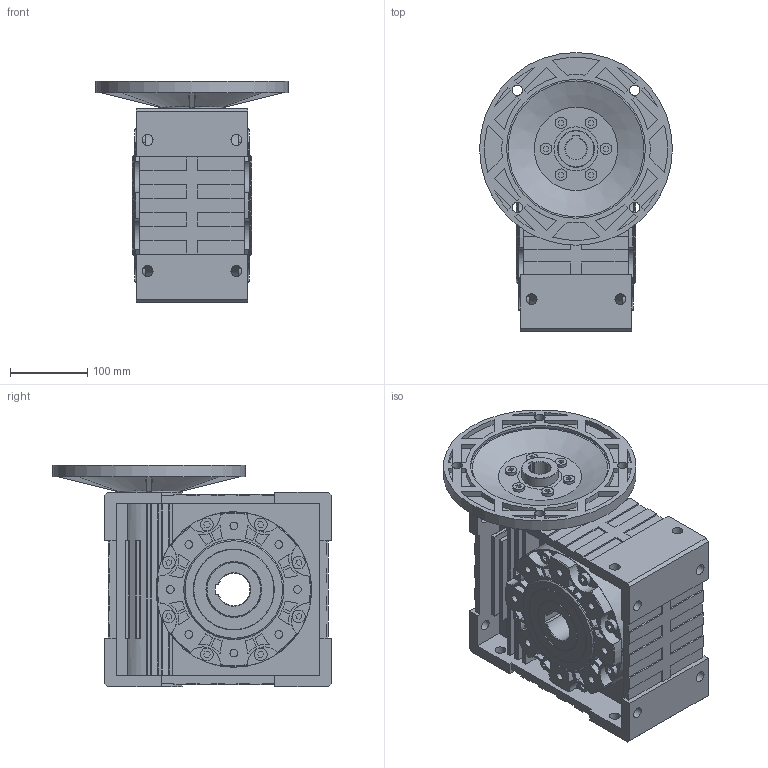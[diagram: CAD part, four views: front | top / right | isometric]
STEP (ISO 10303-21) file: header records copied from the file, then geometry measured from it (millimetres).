
FILE_DESCRIPTION(/* description */ (''),/* implementation_level */ '2;1');
FILE_NAME(/* name */ 'Z:\동력 3D 파일\PCMRV110_100-112B5_(3D).stp',/* time_stamp */ '2021-11-25T13:33:52+09:00',/* author */ ('jaebok'),/* organization */ (''),/* preprocessor_version */ 'ST-DEVELOPER v18.1',/* originating_system */ 'Autodesk Inventor 2022',/* authorisation */ '');
FILE_SCHEMA (('AUTOMOTIVE_DESIGN { 1 0 10303 214 3 1 1 }'));
Length unit declared in the file: millimetre
Products named in the file (1): 부품2
Bounding box: 250 x 361.5 x 287 mm (x, y, z)
Volume: 8916713.4 mm3; surface area: 671543.8 mm2
Topology: 1 solids, 2 shells, 951 faces, 2435 edges, 1619 vertices
Faces by surface type: plane 627, cylinder 291, cone 33
Full cylindrical faces by diameter (mm): 10 x16, 13.5 x4, 14 x16, 15.084 x6, 16.5 x16, 47.6 x1, 57.12 x1, 71.4 x2, 78.25 x2, 80.25 x2, 81 x1, 105 x2, 130 x2, 180 x1, 201.6 x2, 250 x1
Entity records: 30136 total; most frequent: CARTESIAN_POINT 5366, DIRECTION 4901, ORIENTED_EDGE 4870, EDGE_CURVE 2435, LINE 1737, VECTOR 1737, VERTEX_POINT 1619, AXIS2_PLACEMENT_3D 1582
